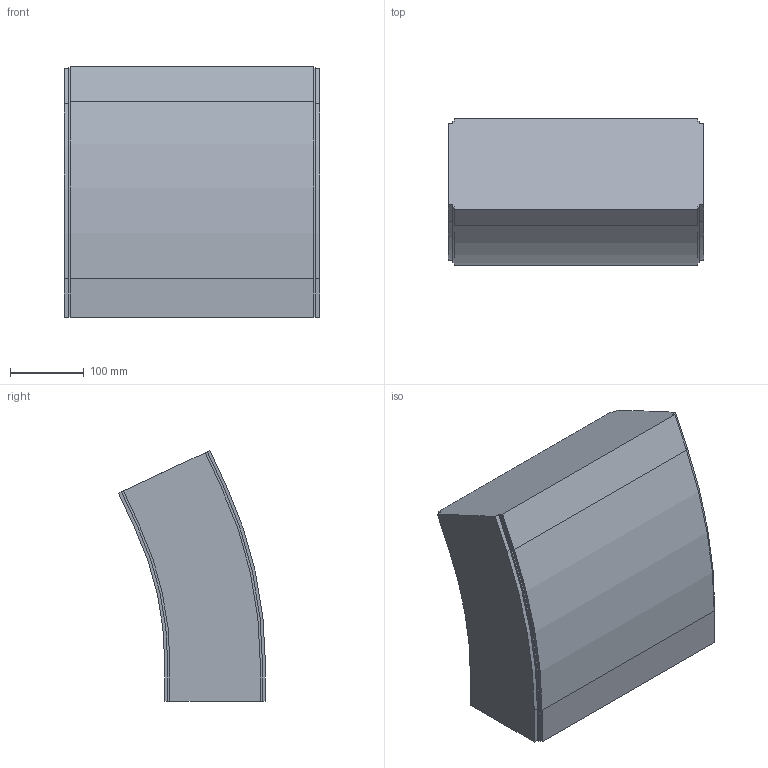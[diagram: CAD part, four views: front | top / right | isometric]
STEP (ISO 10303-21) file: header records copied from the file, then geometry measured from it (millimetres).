
FILE_DESCRIPTION (( 'STEP AP214' ), '1' );
FILE_NAME ('FS-MTC2-150-INOX verticaalbocht.350 25°.STEP', '2017-02-08T12:42:44', ( '' ), ( '' ), 'SwSTEP 2.0', 'SolidWorks 2016', '' );
FILE_SCHEMA (( 'AUTOMOTIVE_DESIGN' ));
Length unit declared in the file: millimetre
Products named in the file (1): FS-MTC2-150-INOX verticaalbocht.350 25°
Bounding box: 346 x 199.14 x 340.23 mm (x, y, z)
Volume: 15198698.2 mm3; surface area: 405916.5 mm2
Topology: 1 solids, 1 shells, 42 faces, 120 edges, 80 vertices
Faces by surface type: plane 32, cylinder 10
Entity records: 1398 total; most frequent: CARTESIAN_POINT 243, ORIENTED_EDGE 240, DIRECTION 226, EDGE_CURVE 120, LINE 100, VECTOR 100, VERTEX_POINT 80, AXIS2_PLACEMENT_3D 63
